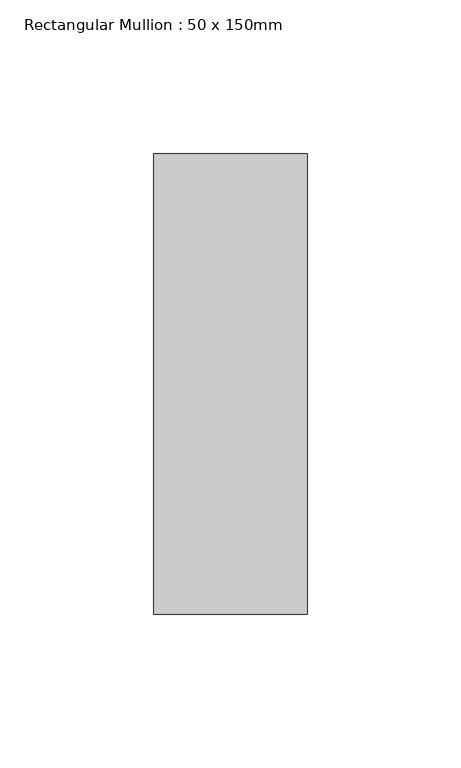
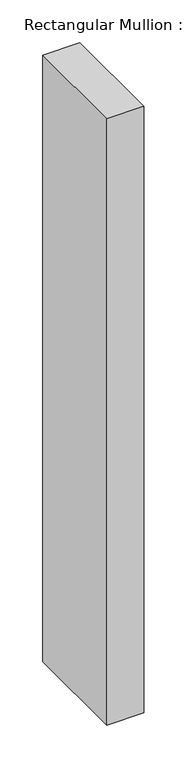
"""IFC4 building model written with IfcOpenShell, lengths in millimetres: member geometry, Rectangular Mullion : 50 x 150mm."""

import ifcopenshell
import ifcopenshell.guid

model = None  # the IFC model being written
_history = None  # IfcOwnerHistory: only IFC2X3 demands one
_inside = {}  # id of a spatial element -> (the spatial element, [elements in it])
_under = {}  # id of a project, library or spatial element -> (it, [spatial elements below it])
_declared = {}  # id of a project -> (the project, [libraries it declares])
_typed = {}  # id of a type object -> (the type object, [elements of that type])
_made_of = {}  # id of a material, layer set ... -> (it, [elements and type objects made of it])


def new_model(schema):
    """Start an empty IFC model of exactly this schema.

    Asked for "IFC4X3", IfcOpenShell would pick the latest addendum, in which some entities
    have other attributes; the version numbers below select the first issue.
    IFC2X3 requires an IfcOwnerHistory on every rooted entity: one is made here for all.
    """
    global model, _history
    if schema == "IFC4X3":
        model = ifcopenshell.file(schema_version=(4, 3, 0, 0))
    else:
        model = ifcopenshell.file(schema=schema)
    _inside.clear()
    _under.clear()
    _declared.clear()
    _typed.clear()
    _made_of.clear()
    _history = None
    if model.schema == "IFC2X3":
        org = make("IfcOrganization", Name="unknown")
        user = make(
            "IfcPersonAndOrganization",
            ThePerson=make("IfcPerson", FamilyName="unknown"),
            TheOrganization=org,
        )
        app = make(
            "IfcApplication",
            ApplicationDeveloper=org,
            Version="unknown",
            ApplicationFullName="unknown",
            ApplicationIdentifier="unknown",
        )
        _history = make(
            "IfcOwnerHistory",
            OwningUser=user,
            OwningApplication=app,
            ChangeAction="ADDED",
            CreationDate=0,
        )
    return model


def make(cls, **values):
    """One entity of the class cls with the attributes given. An attribute that is None is left unset."""
    return model.create_entity(
        cls, **{name: value for name, value in values.items() if value is not None}
    )


def rooted(cls, **values):
    """An entity with a GlobalId (a new one), such as an element, a storey or a relation."""
    return make(cls, GlobalId=ifcopenshell.guid.new(), OwnerHistory=_history, **values)


def si_unit(unit_type, name, prefix=None):
    """IfcSIUnit, for example si_unit("LENGTHUNIT", "METRE", prefix="MILLI")."""
    return make("IfcSIUnit", UnitType=unit_type, Prefix=prefix, Name=name)


def assignment(units):
    """IfcUnitAssignment: the units of a project."""
    return None if units is None else make("IfcUnitAssignment", Units=units)


def point(xyz):
    """IfcCartesianPoint."""
    return None if xyz is None else make("IfcCartesianPoint", Coordinates=xyz)


def direction(xyz):
    """IfcDirection."""
    return None if xyz is None else make("IfcDirection", DirectionRatios=xyz)


def frame(location, z_axis=None, x_axis=None):
    """IfcAxis2Placement3D, a coordinate frame: its origin and axes. An axis left out is left unset."""
    return make(
        "IfcAxis2Placement3D",
        Location=point(location),
        Axis=direction(z_axis),
        RefDirection=direction(x_axis),
    )


def origin():
    """The frame at (0, 0, 0) with its axes left unset."""
    return frame((0.0, 0.0, 0.0))


def place(relative_to, where):
    """IfcLocalPlacement: puts the frame where relative to a parent placement (None: the world)."""
    return make(
        "IfcLocalPlacement", PlacementRelTo=relative_to, RelativePlacement=where
    )


def context(
    kind, dimensions, precision=None, world=None, true_north=None, identifier=None
):
    """IfcGeometricRepresentationContext, for example the 3D "Model" context."""
    return make(
        "IfcGeometricRepresentationContext",
        ContextIdentifier=identifier,
        ContextType=kind,
        CoordinateSpaceDimension=dimensions,
        Precision=precision,
        WorldCoordinateSystem=world,
        TrueNorth=true_north,
    )


def project(units=None, contexts=None):
    """IfcProject with its units and contexts."""
    return rooted(
        "IfcProject",
        Name="project",
        RepresentationContexts=contexts,
        UnitsInContext=assignment(units),
    )


def spatial(cls, under=None, at=None, **own):
    """A site, building, storey or space (cls), placed at a placement, below another one or the project."""
    s = rooted(cls, ObjectPlacement=at, **own)
    if under is not None:
        _under.setdefault(under.id(), (under, []))[1].append(s)
    return s


def polyline(points):
    """IfcPolyline through the points."""
    return make("IfcPolyline", Points=[point(p) for p in points])


def outline(outer, holes=None, kind="AREA"):
    """IfcArbitraryClosedProfileDef: a profile drawn as a closed curve; with holes, ...WithVoids."""
    if holes is None:
        return make("IfcArbitraryClosedProfileDef", ProfileType=kind, OuterCurve=outer)
    return make(
        "IfcArbitraryProfileDefWithVoids",
        ProfileType=kind,
        OuterCurve=outer,
        InnerCurves=holes,
    )


def extrude(swept, where, along, depth):
    """IfcExtrudedAreaSolid: the profile swept, set in the frame where, extruded along a direction by depth."""
    return make(
        "IfcExtrudedAreaSolid",
        SweptArea=swept,
        Position=where,
        ExtrudedDirection=direction(along),
        Depth=depth,
    )


def shape(context_of_items, identifier, shape_type, items):
    """IfcShapeRepresentation: the items that make up one representation, for example the "Body"."""
    return make(
        "IfcShapeRepresentation",
        ContextOfItems=context_of_items,
        RepresentationIdentifier=identifier,
        RepresentationType=shape_type,
        Items=items,
    )


def source(mapping_origin, context_of_items, identifier, shape_type, items):
    """IfcRepresentationMap: a shape defined once, which mapped items show again and again."""
    return make(
        "IfcRepresentationMap",
        MappingOrigin=mapping_origin,
        MappedRepresentation=shape(context_of_items, identifier, shape_type, items),
    )


def transform(
    local_origin,
    x_axis=None,
    y_axis=None,
    z_axis=None,
    scale=None,
    scale2=None,
    scale3=None,
    uniform=True,
):
    """IfcCartesianTransformationOperator3D, or its non-uniform kind. x_axis, y_axis, z_axis: its Axis1, 2, 3."""
    if uniform:
        return make(
            "IfcCartesianTransformationOperator3D",
            Axis1=direction(x_axis),
            Axis2=direction(y_axis),
            LocalOrigin=point(local_origin),
            Scale=scale,
            Axis3=direction(z_axis),
        )
    return make(
        "IfcCartesianTransformationOperator3DnonUniform",
        Axis1=direction(x_axis),
        Axis2=direction(y_axis),
        LocalOrigin=point(local_origin),
        Scale=scale,
        Axis3=direction(z_axis),
        Scale2=scale2,
        Scale3=scale3,
    )


def mapped(mapping_source, mapping_target):
    """IfcMappedItem: shows the shape of a source again, moved by a transform."""
    return make(
        "IfcMappedItem", MappingSource=mapping_source, MappingTarget=mapping_target
    )


def made_of(thing, what):
    """Note that an element or type object is made of a material, layer set ...; save() writes the relation."""
    if what is not None:
        _made_of.setdefault(what.id(), (what, []))[1].append(thing)
    return thing


def element(
    cls,
    number,
    at=None,
    inside=None,
    cuts=None,
    type_object=None,
    material=None,
    context=None,
    identifier="Body",
    shape_type=None,
    held_by="IfcProductDefinitionShape",
    body=None,
    shapes=None,
    **own,
):
    """One element of the class cls, such as IfcWall. Its Tag is "e" and its number.

    at: its placement. inside: the storey or other place that contains it. cuts: it is an
    opening in that element (IfcRelVoidsElement). A single representation is given by context,
    identifier, shape_type and body (its items); several are given by shapes. held_by: the class
    of the entity that holds the representations. save() writes the other relations.
    """
    e = rooted(cls, Tag="e%d" % number, ObjectPlacement=at, **own)
    if body is not None:
        shapes = [shape(context, identifier, shape_type, body)]
    if shapes is not None:
        e.Representation = make(held_by, Representations=shapes)
    if inside is not None:
        _inside.setdefault(inside.id(), (inside, []))[1].append(e)
    if cuts is not None:
        rooted(
            "IfcRelVoidsElement", RelatingBuildingElement=cuts, RelatedOpeningElement=e
        )
    if type_object is not None:
        _typed.setdefault(type_object.id(), (type_object, []))[1].append(e)
    return made_of(e, material)


def aggregate(whole, parts):
    """IfcRelAggregates: a whole, such as a stair, and the parts it consists of."""
    return rooted("IfcRelAggregates", RelatingObject=whole, RelatedObjects=parts)


def save(model, path):
    """Write the relations noted so far, then the file.

    IfcRelAggregates (storeys below a building ...), IfcRelContainedInSpatialStructure (elements
    in a storey), IfcRelDefinesByType, IfcRelAssociatesMaterial and IfcRelDeclares: one each for
    every whole, place, type object, material and project.
    """
    for whole, parts in _under.values():
        aggregate(whole, parts)
    for where, things in _inside.values():
        rooted(
            "IfcRelContainedInSpatialStructure",
            RelatedElements=things,
            RelatingStructure=where,
        )
    for kind, things in _typed.values():
        rooted("IfcRelDefinesByType", RelatedObjects=things, RelatingType=kind)
    for what, things in _made_of.values():
        rooted("IfcRelAssociatesMaterial", RelatedObjects=things, RelatingMaterial=what)
    for by, libraries in _declared.values():
        rooted("IfcRelDeclares", RelatingContext=by, RelatedDefinitions=libraries)
    model.write(path)


def rectangular_mullion_50_x_150mm_f1bc9ffe(model_context):
    return source(origin(), model_context, "Body", "SweptSolid", [
        extrude(outline(polyline([(25.0, 75.0), (25.0, -75.0), (-25.0, -75.0), (-25.0, 75.0), (25.0, 75.0)])), frame((0.0, 0.0, -865.592625), z_axis=(0.0, 0.0, 1.0), x_axis=(1.0, 0.0, 0.0)), (0.0, 0.0, 1.0), 865.592625),
    ])


if __name__ == "__main__":
    model = new_model("IFC4")
    model_context = context("Model", 3, world=origin())
    ifc_project = project(units=[si_unit("LENGTHUNIT", "METRE", prefix="MILLI")], contexts=[model_context])
    site = spatial("IfcSite", under=ifc_project)
    building = spatial("IfcBuilding", under=site)
    placement = place(None, origin())
    rectangular_mullion_50_x_150mm_shape = rectangular_mullion_50_x_150mm_f1bc9ffe(model_context)
    element("IfcMember", 1, ObjectType="Rectangular Mullion : 50 x 150mm", at=placement, inside=building, context=model_context, shape_type="MappedRepresentation", body=[
        mapped(rectangular_mullion_50_x_150mm_shape, transform((0.0, 0.0, 0.0), x_axis=(1.0, 0.0, 0.0), y_axis=(0.0, 1.0, 0.0), z_axis=(0.0, 0.0, 1.0))),
    ])
    save(model, "model.ifc")
